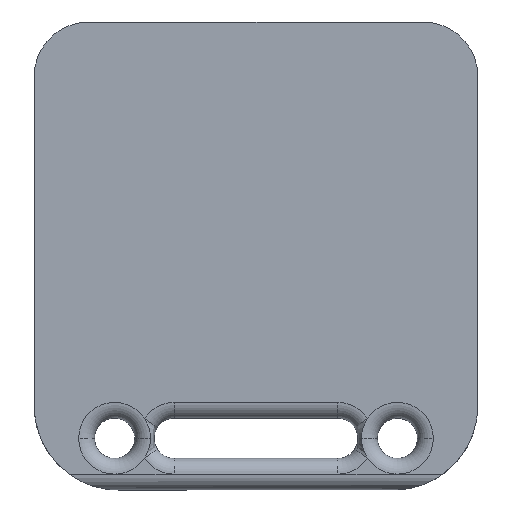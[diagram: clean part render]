
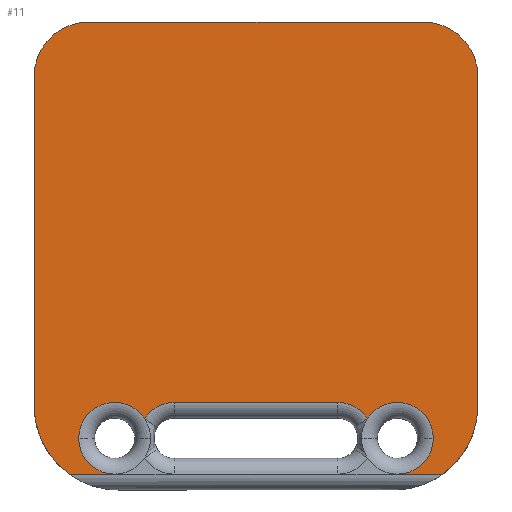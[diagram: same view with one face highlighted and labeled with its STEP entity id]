
A CAD part, top view. The second image highlights one B-rep face of the part: STEP entity #11.
In plain terms, the highlighted planar face has unit normal (0, 0, 1).
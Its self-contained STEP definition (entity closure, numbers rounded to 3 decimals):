
#11 = ADVANCED_FACE ( 'NONE', ( #575 ), #747, .F. ) ;
#85 = EDGE_CURVE ( 'NONE', #650, #651, #1493, .T. ) ;
#86 = EDGE_CURVE ( 'NONE', #651, #3814, #1496, .T. ) ;
#87 = EDGE_CURVE ( 'NONE', #3815, #644, #1498, .T. ) ;
#88 = EDGE_CURVE ( 'NONE', #644, #652, #1497, .T. ) ;
#89 = EDGE_CURVE ( 'NONE', #652, #653, #1501, .T. ) ;
#90 = EDGE_CURVE ( 'NONE', #653, #654, #1500, .T. ) ;
#91 = EDGE_CURVE ( 'NONE', #654, #655, #1504, .T. ) ;
#92 = EDGE_CURVE ( 'NONE', #655, #656, #1503, .T. ) ;
#93 = EDGE_CURVE ( 'NONE', #656, #657, #1507, .T. ) ;
#94 = EDGE_CURVE ( 'NONE', #657, #658, #1506, .T. ) ;
#95 = EDGE_CURVE ( 'NONE', #658, #659, #1510, .T. ) ;
#96 = EDGE_CURVE ( 'NONE', #659, #647, #1509, .T. ) ;
#97 = EDGE_CURVE ( 'NONE', #647, #1644, #1512, .T. ) ;
#98 = EDGE_CURVE ( 'NONE', #3808, #650, #1514, .T. ) ;
#168 = EDGE_CURVE ( 'NONE', #3814, #3815, #3124, .T. ) ;
#174 = EDGE_CURVE ( 'NONE', #1644, #3808, #3130, .T. ) ;
#222 = AXIS2_PLACEMENT_3D ( 'NONE', #748, #749, #750 ) ;
#294 = AXIS2_PLACEMENT_3D ( 'NONE', #2545, #2546, #2547 ) ;
#295 = AXIS2_PLACEMENT_3D ( 'NONE', #2548, #2549, #2550 ) ;
#296 = AXIS2_PLACEMENT_3D ( 'NONE', #2553, #2554, #2555 ) ;
#297 = AXIS2_PLACEMENT_3D ( 'NONE', #2558, #2559, #2560 ) ;
#298 = AXIS2_PLACEMENT_3D ( 'NONE', #2563, #2564, #2565 ) ;
#299 = AXIS2_PLACEMENT_3D ( 'NONE', #2568, #2569, #2570 ) ;
#300 = AXIS2_PLACEMENT_3D ( 'NONE', #2573, #2574, #2575 ) ;
#301 = AXIS2_PLACEMENT_3D ( 'NONE', #2576, #2577, #2578 ) ;
#322 = AXIS2_PLACEMENT_3D ( 'NONE', #2944, #2945, #2946 ) ;
#328 = AXIS2_PLACEMENT_3D ( 'NONE', #2962, #2963, #2964 ) ;
#575 = FACE_OUTER_BOUND ( 'NONE', #4007, .T. ) ;
#644 = VERTEX_POINT ( 'NONE', #3453 ) ;
#647 = VERTEX_POINT ( 'NONE', #3456 ) ;
#650 = VERTEX_POINT ( 'NONE', #3459 ) ;
#651 = VERTEX_POINT ( 'NONE', #3460 ) ;
#652 = VERTEX_POINT ( 'NONE', #3461 ) ;
#653 = VERTEX_POINT ( 'NONE', #3462 ) ;
#654 = VERTEX_POINT ( 'NONE', #3463 ) ;
#655 = VERTEX_POINT ( 'NONE', #3464 ) ;
#656 = VERTEX_POINT ( 'NONE', #3465 ) ;
#657 = VERTEX_POINT ( 'NONE', #3466 ) ;
#658 = VERTEX_POINT ( 'NONE', #3467 ) ;
#659 = VERTEX_POINT ( 'NONE', #3468 ) ;
#747 = PLANE ( 'NONE',  #222 ) ;
#748 = CARTESIAN_POINT ( 'NONE',  ( -87.388, 127.075, 0. ) ) ;
#749 = DIRECTION ( 'NONE',  ( 0., 0., -1. ) ) ;
#750 = DIRECTION ( 'NONE',  ( -1., 0., 0. ) ) ;
#1493 = LINE ( 'NONE', #2543, #1495 ) ;
#1495 = VECTOR ( 'NONE', #2544, 1000. ) ;
#1496 = CIRCLE ( 'NONE', #294, 18.75 ) ;
#1497 = LINE ( 'NONE', #2551, #1499 ) ;
#1498 = CIRCLE ( 'NONE', #295, 18.75 ) ;
#1499 = VECTOR ( 'NONE', #2552, 1000. ) ;
#1500 = LINE ( 'NONE', #2556, #1502 ) ;
#1501 = CIRCLE ( 'NONE', #296, 44. ) ;
#1502 = VECTOR ( 'NONE', #2557, 1000. ) ;
#1503 = LINE ( 'NONE', #2561, #1505 ) ;
#1504 = CIRCLE ( 'NONE', #297, 28.5 ) ;
#1505 = VECTOR ( 'NONE', #2562, 1000. ) ;
#1506 = LINE ( 'NONE', #2566, #1508 ) ;
#1507 = CIRCLE ( 'NONE', #298, 28.5 ) ;
#1508 = VECTOR ( 'NONE', #2567, 1000. ) ;
#1509 = LINE ( 'NONE', #2571, #1511 ) ;
#1510 = CIRCLE ( 'NONE', #299, 44. ) ;
#1511 = VECTOR ( 'NONE', #2572, 1000. ) ;
#1512 = CIRCLE ( 'NONE', #300, 18.75 ) ;
#1514 = CIRCLE ( 'NONE', #301, 18.75 ) ;
#1644 = VERTEX_POINT ( 'NONE', #3495 ) ;
#2543 = CARTESIAN_POINT ( 'NONE',  ( -87.388, -43.15, 0. ) ) ;
#2544 = DIRECTION ( 'NONE',  ( 1., 0., 0. ) ) ;
#2545 = CARTESIAN_POINT ( 'NONE',  ( 42.737, -61.9, 0. ) ) ;
#2546 = DIRECTION ( 'NONE',  ( 0., 0., -1. ) ) ;
#2547 = DIRECTION ( 'NONE',  ( -1., 0., 0. ) ) ;
#2548 = CARTESIAN_POINT ( 'NONE',  ( 73.887, -61.9, 0. ) ) ;
#2549 = DIRECTION ( 'NONE',  ( 0., 0., -1. ) ) ;
#2550 = DIRECTION ( 'NONE',  ( -1., 0., 0. ) ) ;
#2551 = CARTESIAN_POINT ( 'NONE',  ( -115.888, -80.65, 0. ) ) ;
#2552 = DIRECTION ( 'NONE',  ( 1., 0., 0. ) ) ;
#2553 = CARTESIAN_POINT ( 'NONE',  ( 71.887, -44.9, 0. ) ) ;
#2554 = DIRECTION ( 'NONE',  ( 0., 0., 1. ) ) ;
#2555 = DIRECTION ( 'NONE',  ( -1., 0., 0. ) ) ;
#2556 = CARTESIAN_POINT ( 'NONE',  ( 115.888, 0., 0. ) ) ;
#2557 = DIRECTION ( 'NONE',  ( 0., 1., 0. ) ) ;
#2558 = CARTESIAN_POINT ( 'NONE',  ( 87.388, 127.075, 0. ) ) ;
#2559 = DIRECTION ( 'NONE',  ( 0., 0., 1. ) ) ;
#2560 = DIRECTION ( 'NONE',  ( -1., 0., 0. ) ) ;
#2561 = CARTESIAN_POINT ( 'NONE',  ( -87.387, 155.575, 0. ) ) ;
#2562 = DIRECTION ( 'NONE',  ( -1., 0., 0. ) ) ;
#2563 = CARTESIAN_POINT ( 'NONE',  ( -87.388, 127.075, 0. ) ) ;
#2564 = DIRECTION ( 'NONE',  ( 0., 0., 1. ) ) ;
#2565 = DIRECTION ( 'NONE',  ( -1., 0., 0. ) ) ;
#2566 = CARTESIAN_POINT ( 'NONE',  ( -115.888, 0., 0. ) ) ;
#2567 = DIRECTION ( 'NONE',  ( 0., -1., 0. ) ) ;
#2568 = CARTESIAN_POINT ( 'NONE',  ( -71.888, -44.9, 0. ) ) ;
#2569 = DIRECTION ( 'NONE',  ( 0., 0., 1. ) ) ;
#2570 = DIRECTION ( 'NONE',  ( 1., 0., 0. ) ) ;
#2571 = CARTESIAN_POINT ( 'NONE',  ( -115.888, -80.65, 0. ) ) ;
#2572 = DIRECTION ( 'NONE',  ( 1., 0., 0. ) ) ;
#2573 = CARTESIAN_POINT ( 'NONE',  ( -73.887, -61.9, 0. ) ) ;
#2574 = DIRECTION ( 'NONE',  ( 0., 0., -1. ) ) ;
#2575 = DIRECTION ( 'NONE',  ( -1., 0., 0. ) ) ;
#2576 = CARTESIAN_POINT ( 'NONE',  ( -42.737, -61.9, 0. ) ) ;
#2577 = DIRECTION ( 'NONE',  ( 0., 0., -1. ) ) ;
#2578 = DIRECTION ( 'NONE',  ( -1., 0., 0. ) ) ;
#2944 = CARTESIAN_POINT ( 'NONE',  ( 73.887, -61.9, 0. ) ) ;
#2945 = DIRECTION ( 'NONE',  ( 0., 0., -1. ) ) ;
#2946 = DIRECTION ( 'NONE',  ( -1., 0., 0. ) ) ;
#2962 = CARTESIAN_POINT ( 'NONE',  ( -73.887, -61.9, 0. ) ) ;
#2963 = DIRECTION ( 'NONE',  ( 0., 0., -1. ) ) ;
#2964 = DIRECTION ( 'NONE',  ( -1., 0., 0. ) ) ;
#3124 = CIRCLE ( 'NONE', #322, 18.75 ) ;
#3130 = CIRCLE ( 'NONE', #328, 18.75 ) ;
#3453 = CARTESIAN_POINT ( 'NONE',  ( 73.887, -80.65, 0. ) ) ;
#3456 = CARTESIAN_POINT ( 'NONE',  ( -73.887, -80.65, 0. ) ) ;
#3459 = CARTESIAN_POINT ( 'NONE',  ( -42.737, -43.15, 0. ) ) ;
#3460 = CARTESIAN_POINT ( 'NONE',  ( 42.737, -43.15, 0. ) ) ;
#3461 = CARTESIAN_POINT ( 'NONE',  ( 97.538, -80.65, 0. ) ) ;
#3462 = CARTESIAN_POINT ( 'NONE',  ( 115.888, -44.9, 0. ) ) ;
#3463 = CARTESIAN_POINT ( 'NONE',  ( 115.888, 127.075, 0. ) ) ;
#3464 = CARTESIAN_POINT ( 'NONE',  ( 87.387, 155.575, 0. ) ) ;
#3465 = CARTESIAN_POINT ( 'NONE',  ( -87.387, 155.575, 0. ) ) ;
#3466 = CARTESIAN_POINT ( 'NONE',  ( -115.888, 127.075, 0. ) ) ;
#3467 = CARTESIAN_POINT ( 'NONE',  ( -115.888, -44.9, 0. ) ) ;
#3468 = CARTESIAN_POINT ( 'NONE',  ( -97.538, -80.65, 0. ) ) ;
#3495 = CARTESIAN_POINT ( 'NONE',  ( -92.637, -61.9, 0. ) ) ;
#3550 = CARTESIAN_POINT ( 'NONE',  ( -58.312, -51.461, 0. ) ) ;
#3556 = CARTESIAN_POINT ( 'NONE',  ( 58.312, -51.461, 0. ) ) ;
#3557 = CARTESIAN_POINT ( 'NONE',  ( 92.637, -61.9, 0. ) ) ;
#3785 = ORIENTED_EDGE ( 'NONE', *, *, #97, .T. ) ;
#3786 = ORIENTED_EDGE ( 'NONE', *, *, #96, .T. ) ;
#3787 = ORIENTED_EDGE ( 'NONE', *, *, #174, .T. ) ;
#3788 = ORIENTED_EDGE ( 'NONE', *, *, #98, .T. ) ;
#3808 = VERTEX_POINT ( 'NONE', #3550 ) ;
#3814 = VERTEX_POINT ( 'NONE', #3556 ) ;
#3815 = VERTEX_POINT ( 'NONE', #3557 ) ;
#3852 = ORIENTED_EDGE ( 'NONE', *, *, #95, .T. ) ;
#3853 = ORIENTED_EDGE ( 'NONE', *, *, #94, .T. ) ;
#3854 = ORIENTED_EDGE ( 'NONE', *, *, #93, .T. ) ;
#3855 = ORIENTED_EDGE ( 'NONE', *, *, #92, .T. ) ;
#3856 = ORIENTED_EDGE ( 'NONE', *, *, #91, .T. ) ;
#3857 = ORIENTED_EDGE ( 'NONE', *, *, #90, .T. ) ;
#3858 = ORIENTED_EDGE ( 'NONE', *, *, #88, .T. ) ;
#3859 = ORIENTED_EDGE ( 'NONE', *, *, #87, .T. ) ;
#3860 = ORIENTED_EDGE ( 'NONE', *, *, #89, .T. ) ;
#3861 = ORIENTED_EDGE ( 'NONE', *, *, #168, .T. ) ;
#3862 = ORIENTED_EDGE ( 'NONE', *, *, #86, .T. ) ;
#3863 = ORIENTED_EDGE ( 'NONE', *, *, #85, .T. ) ;
#4007 = EDGE_LOOP ( 'NONE', ( #3863, #3862, #3861, #3859, #3858, #3860, #3857, #3856, #3855, #3854, #3853, #3852, #3786, #3785, #3787, #3788 ) ) ;
